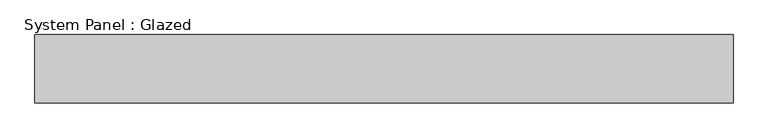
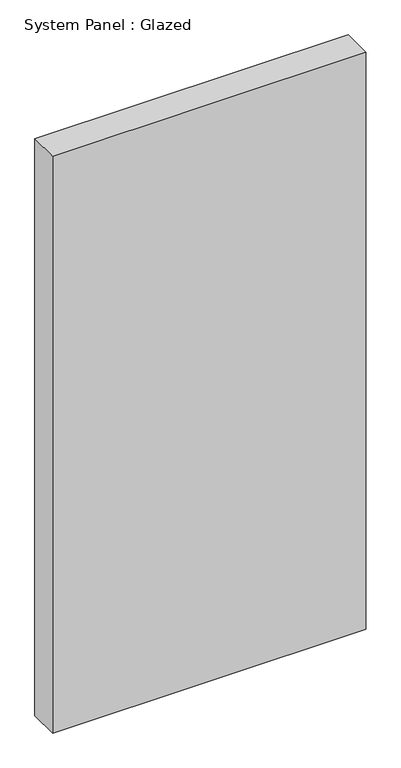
"""IFC4 building model written with IfcOpenShell, lengths in millimetres: plate geometry, System Panel : Glazed."""

from ifc_helpers import new_model, si_unit, origin, origin_with_axes, place, context, project, spatial, polyline, outline, extrude, source, transform, mapped, element, save


def system_panel_glazed_d26497f8(model_context):
    return source(origin(), model_context, "Body", "SweptSolid", [
        extrude(outline(polyline([(512.5, 50.0), (-512.5, 50.0), (-512.5, 150.0), (512.5, 150.0), (512.5, 50.0)])), origin_with_axes(), (0.0, 0.0, 1.0), 1996.8090256),
    ])


if __name__ == "__main__":
    model = new_model("IFC4")
    model_context = context("Model", 3, world=origin())
    ifc_project = project(units=[si_unit("LENGTHUNIT", "METRE", prefix="MILLI")], contexts=[model_context])
    site = spatial("IfcSite", under=ifc_project)
    building = spatial("IfcBuilding", under=site)
    placement = place(None, origin())
    system_panel_glazed_shape = system_panel_glazed_d26497f8(model_context)
    element("IfcPlate", 1, ObjectType="System Panel : Glazed", at=placement, inside=building, context=model_context, shape_type="MappedRepresentation", body=[
        mapped(system_panel_glazed_shape, transform((0.0, 0.0, 0.0), x_axis=(1.0, 0.0, 0.0), y_axis=(0.0, 1.0, 0.0), z_axis=(0.0, 0.0, 1.0))),
    ])
    save(model, "model.ifc")
